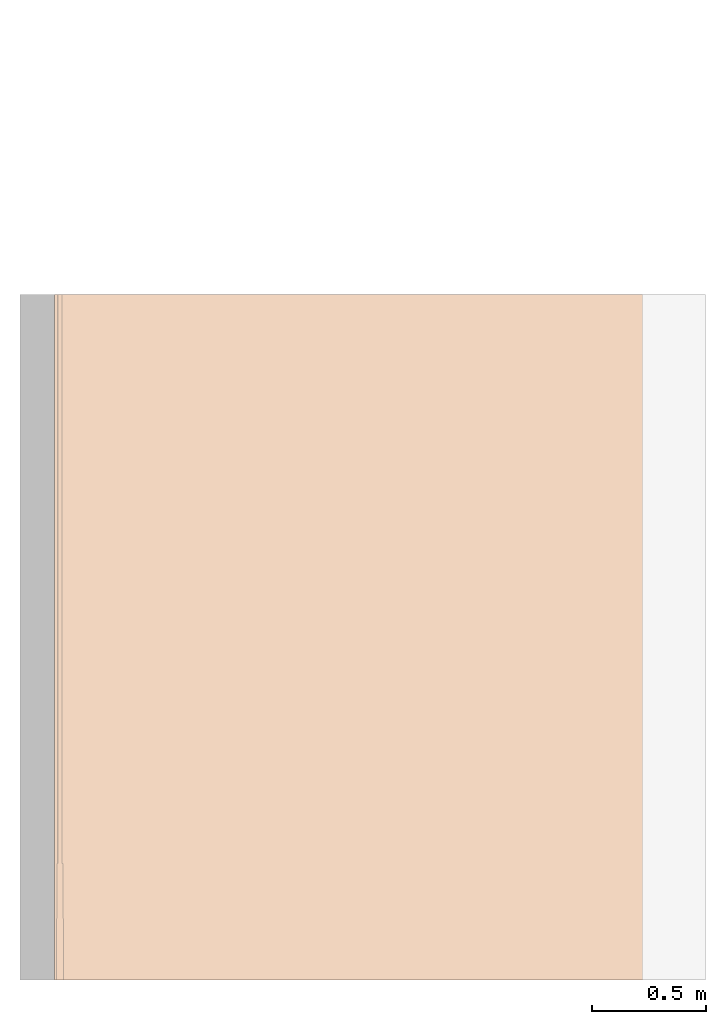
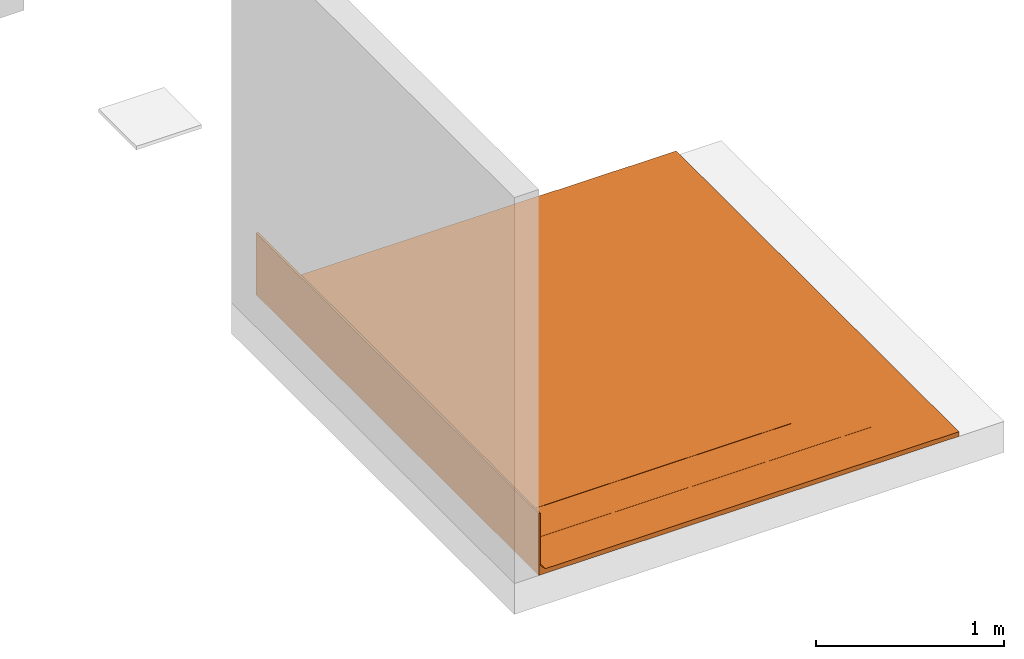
# One storey, part 2 of 2: 1 proxy.
"""IFC2X3 building model written with IfcOpenShell, lengths in metres."""

from ifc_helpers import new_model, entity, si_unit, converted_unit, derived_unit, direction, frame, frame_2d, origin, place, context, subcontext, project, spatial, polyline, circle_curve, parameter, trimmed, segment, composite_curve, rectangle, outline, extrude, source, transform, mapped, material, material_list, type_object, type_shapes, element, save


model = new_model("IFC2X3")

# Units and contexts
model_context = context("Model", 3, precision=1e-05, world=origin(), true_north=direction((6.123031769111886e-17, 1.0)))
body_context = subcontext(model_context, "Body", "Model", "MODEL_VIEW")
ifc_project = project(units=[si_unit("LENGTHUNIT", "METRE"), si_unit("AREAUNIT", "SQUARE_METRE"), si_unit("VOLUMEUNIT", "CUBIC_METRE"), converted_unit("PLANEANGLEUNIT", "DEGREE", entity("IfcRatioMeasure", 0.017453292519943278), si_unit("PLANEANGLEUNIT", "RADIAN"), dimensions=[0, 0, 0, 0, 0, 0, 0]), si_unit("MASSUNIT", "GRAM", prefix="KILO"), derived_unit("MASSDENSITYUNIT", [(si_unit("MASSUNIT", "GRAM", prefix="KILO"), 1), (si_unit("LENGTHUNIT", "METRE"), -3)]), derived_unit("IONCONCENTRATIONUNIT", [(si_unit("MASSUNIT", "GRAM", prefix="KILO"), 1), (si_unit("LENGTHUNIT", "METRE"), -3)]), derived_unit("MOMENTOFINERTIAUNIT", [(si_unit("LENGTHUNIT", "METRE"), 4)]), si_unit("TIMEUNIT", "SECOND"), si_unit("FREQUENCYUNIT", "HERTZ"), si_unit("THERMODYNAMICTEMPERATUREUNIT", "DEGREE_CELSIUS"), derived_unit("THERMALTRANSMITTANCEUNIT", [(si_unit("MASSUNIT", "GRAM", prefix="KILO"), 1), (si_unit("THERMODYNAMICTEMPERATUREUNIT", "KELVIN"), -1), (si_unit("TIMEUNIT", "SECOND"), -3)]), derived_unit("THERMALCONDUCTANCEUNIT", [(si_unit("MASSUNIT", "GRAM", prefix="KILO"), 1), (si_unit("THERMODYNAMICTEMPERATUREUNIT", "KELVIN"), -1), (si_unit("TIMEUNIT", "SECOND"), -3), (si_unit("LENGTHUNIT", "METRE"), 1)]), derived_unit("VOLUMETRICFLOWRATEUNIT", [(si_unit("LENGTHUNIT", "METRE"), 3), (si_unit("TIMEUNIT", "SECOND"), -1)]), derived_unit("MASSFLOWRATEUNIT", [(si_unit("MASSUNIT", "GRAM", prefix="KILO"), 1), (si_unit("TIMEUNIT", "SECOND"), -1)]), derived_unit("ROTATIONALFREQUENCYUNIT", [(si_unit("TIMEUNIT", "SECOND"), -1)]), si_unit("ELECTRICCURRENTUNIT", "AMPERE"), si_unit("ELECTRICVOLTAGEUNIT", "VOLT"), si_unit("POWERUNIT", "WATT"), si_unit("FORCEUNIT", "NEWTON", prefix="KILO"), si_unit("ILLUMINANCEUNIT", "LUX"), si_unit("LUMINOUSFLUXUNIT", "LUMEN"), si_unit("LUMINOUSINTENSITYUNIT", "CANDELA"), derived_unit("USERDEFINED", [(si_unit("MASSUNIT", "GRAM", prefix="KILO"), -1), (si_unit("LENGTHUNIT", "METRE"), -2), (si_unit("TIMEUNIT", "SECOND"), 3), (si_unit("LUMINOUSFLUXUNIT", "LUMEN"), 1)]), derived_unit("USERDEFINED", [(si_unit("MASSUNIT", "GRAM", prefix="KILO"), 1), (si_unit("TIMEUNIT", "SECOND"), -3), (si_unit("LENGTHUNIT", "METRE"), 3), (si_unit("ELECTRICCURRENTUNIT", "AMPERE"), -2)]), derived_unit("SOUNDPOWERUNIT", [(si_unit("MASSUNIT", "GRAM", prefix="KILO"), 1), (si_unit("TIMEUNIT", "SECOND"), -3), (si_unit("LENGTHUNIT", "METRE"), 2)]), derived_unit("SOUNDPRESSUREUNIT", [(si_unit("MASSUNIT", "GRAM", prefix="KILO"), 1), (si_unit("LENGTHUNIT", "METRE"), -1), (si_unit("TIMEUNIT", "SECOND"), -2)]), derived_unit("LINEARVELOCITYUNIT", [(si_unit("LENGTHUNIT", "METRE"), 1), (si_unit("TIMEUNIT", "SECOND"), -1)]), si_unit("PRESSUREUNIT", "PASCAL"), derived_unit("USERDEFINED", [(si_unit("MASSUNIT", "GRAM", prefix="KILO"), 1), (si_unit("LENGTHUNIT", "METRE"), -2), (si_unit("TIMEUNIT", "SECOND"), -2)]), derived_unit("LINEARFORCEUNIT", [(si_unit("MASSUNIT", "GRAM", prefix="KILO"), 1), (si_unit("TIMEUNIT", "SECOND"), -2)]), derived_unit("PLANARFORCEUNIT", [(si_unit("MASSUNIT", "GRAM", prefix="KILO"), 1), (si_unit("LENGTHUNIT", "METRE"), -1), (si_unit("TIMEUNIT", "SECOND"), -2)]), derived_unit("SPECIFICHEATCAPACITYUNIT", [(si_unit("THERMODYNAMICTEMPERATUREUNIT", "KELVIN"), -1), (si_unit("LENGTHUNIT", "METRE"), 2), (si_unit("TIMEUNIT", "SECOND"), -2)]), derived_unit("HEATINGVALUEUNIT", [(si_unit("LENGTHUNIT", "METRE"), 2), (si_unit("TIMEUNIT", "SECOND"), -2)]), derived_unit("VAPORPERMEABILITYUNIT", [(si_unit("LENGTHUNIT", "METRE"), -1), (si_unit("TIMEUNIT", "SECOND"), 1)]), derived_unit("DYNAMICVISCOSITYUNIT", [(si_unit("MASSUNIT", "GRAM", prefix="KILO"), 1), (si_unit("TIMEUNIT", "SECOND"), -1), (si_unit("LENGTHUNIT", "METRE"), -1)]), derived_unit("THERMALEXPANSIONCOEFFICIENTUNIT", [(si_unit("THERMODYNAMICTEMPERATUREUNIT", "KELVIN"), -1)]), derived_unit("MODULUSOFELASTICITYUNIT", [(si_unit("MASSUNIT", "GRAM", prefix="KILO"), 1), (si_unit("LENGTHUNIT", "METRE"), -1), (si_unit("TIMEUNIT", "SECOND"), -2)]), derived_unit("ISOTHERMALMOISTURECAPACITYUNIT", [(si_unit("LENGTHUNIT", "METRE"), 3), (si_unit("MASSUNIT", "GRAM", prefix="KILO"), -1)]), derived_unit("MOISTUREDIFFUSIVITYUNIT", [(si_unit("TIMEUNIT", "SECOND"), -1), (si_unit("LENGTHUNIT", "METRE"), 2)])], contexts=[model_context])

# Site, building, storey
site_placement = place(None, origin())
site = spatial("IfcSite", under=ifc_project, at=site_placement, Name="Default", CompositionType="ELEMENT")
building_placement = place(site_placement, origin())
building = spatial("IfcBuilding", under=site, at=building_placement, CompositionType="ELEMENT")
storey_placement = place(building_placement, frame((0.0, 0.0, -0.0025237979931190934)))
storey = spatial("IfcBuildingStorey", under=building, at=storey_placement, Name="ARQ Térreo", CompositionType="ELEMENT", Elevation=-0.0025237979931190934)

# Proxy
ifc_material_1 = material(Name="#argamassa")
ifc_material_2 = material(Name="#Primer Adeflex")
ifc_material_3 = material(Name="#Viamanta Multiuso Autocolante Alumínio")
ifc_material_list = material_list([ifc_material_1, ifc_material_2, ifc_material_3])
building_element_proxy_type = type_object("IfcBuildingElementProxyType", Name="IMPER:IMPER", PredefinedType="NOTDEFINED", material=ifc_material_list)
shared_shape = source(origin(), body_context, "Body", "SweptSolid", [
    extrude(rectangle(XDim=3.0000000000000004, YDim=0.010000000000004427, at=frame_2d((0.0, -3.382710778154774e-17), x_axis=(1.0, 0.0))), frame((-0.3469704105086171, -1.354129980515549, -0.0025237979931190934), z_axis=(0.0, 0.0, 1.0), x_axis=(0.0, -1.0, 0.0)), (0.0, 0.0, 1.0), 0.4000256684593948),
    extrude(outline(composite_curve([segment(polyline([(-1.0015321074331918, -0.006000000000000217), (1.5322981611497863, -0.006000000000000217)]), True, "CONTINUOUS"), segment(polyline([(1.5322981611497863, -0.006000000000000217), (1.5322981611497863, 0.023999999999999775)]), True, "CONTINUOUS"), segment(polyline([(1.5322981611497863, 0.023999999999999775), (-1.0315321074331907, 0.023999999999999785)]), True, "CONTINUOUS"), segment(polyline([(-1.0315321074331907, 0.023999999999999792), (-1.031532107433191, -0.03599999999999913)]), True, "CONTINUOUS"), segment(trimmed(circle_curve(frame_2d((-1.0015321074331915, -0.03599999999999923), x_axis=(1.0, 0.0)), 0.029999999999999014), [parameter(90.0000000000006)], [parameter(179.99999999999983)], True, "PARAMETER"), False, "CONTINUOUS")], self_intersect=False)), frame((0.6895616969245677, -2.854129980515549, 0.02147620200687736), z_axis=(0.0, 1.0, 0.0), x_axis=(1.0, 0.0, 0.0)), (0.0, 0.0, 1.0), 3.0000000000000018),
    extrude(outline(composite_curve([segment(polyline([(-0.5530448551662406, -0.07097145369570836), (-0.5530448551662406, 0.2698640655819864)]), True, "CONTINUOUS"), segment(polyline([(-0.5530448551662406, 0.2698640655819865), (-0.5540561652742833, 0.2698640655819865)]), True, "CONTINUOUS"), segment(polyline([(-0.5540561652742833, 0.2698640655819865), (-0.5540561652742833, -0.07016160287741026)]), True, "CONTINUOUS"), segment(trimmed(circle_curve(frame_2d((-0.5240561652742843, -0.07016160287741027), x_axis=(1.0, 0.0)), 0.029999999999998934), [parameter(179.99999999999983)], [parameter(270.00000000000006)], True, "PARAMETER"), True, "CONTINUOUS"), segment(polyline([(-0.5240561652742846, -0.10016160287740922), (1.6317671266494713, -0.10016160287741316)]), True, "CONTINUOUS"), segment(polyline([(1.6317671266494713, -0.10016160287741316), (1.6317671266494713, -0.09913593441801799)]), True, "CONTINUOUS"), segment(polyline([(1.6317671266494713, -0.09913593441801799), (-0.5252760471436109, -0.09913593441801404)]), True, "CONTINUOUS"), segment(trimmed(circle_curve(frame_2d((-0.5240561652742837, -0.07016160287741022), x_axis=(1.0, 0.0)), 0.028999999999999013), [parameter(181.60024369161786)], [parameter(267.5891478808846)], True, "PARAMETER"), False, "CONTINUOUS")], self_intersect=False)), frame((0.21208575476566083, -2.5846706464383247, 0.1276378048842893), z_axis=(0.0, -1.0, 0.0), x_axis=(1.0, 0.0, 0.0)), (0.0, 0.0, -1.0), 2.7305406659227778),
    extrude(outline(composite_curve([segment(polyline([(-0.2518303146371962, -0.026749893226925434), (-0.2518303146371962, -0.028749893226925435)]), True, "CONTINUOUS"), segment(polyline([(-0.2518303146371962, -0.028749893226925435), (-0.025136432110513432, -0.028749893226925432)]), True, "CONTINUOUS"), segment(trimmed(circle_curve(frame_2d((-0.025136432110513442, -0.019778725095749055), x_axis=(0.0, 1.0)), 0.008971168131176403), [parameter(179.99999999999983)], [parameter(188.97259907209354)], True, "PARAMETER"), True, "CONTINUOUS"), segment(trimmed(circle_curve(frame_2d((-0.031585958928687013, -0.0009508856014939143), x_axis=(0.0, 1.0)), 0.028780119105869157), [parameter(195.82572132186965)], [parameter(206.30888894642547)], True, "PARAMETER"), True, "CONTINUOUS"), segment(polyline([(-0.018830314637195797, -0.0267498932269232), (0.08897677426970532, -0.026749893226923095)]), True, "CONTINUOUS"), segment(trimmed(circle_curve(frame_2d((0.08819535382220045, 0.00023879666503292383), x_axis=(0.0, 1.0)), 0.026999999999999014), [parameter(181.6584572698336)], [parameter(267.5014383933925)], True, "PARAMETER"), True, "CONTINUOUS"), segment(polyline([(0.11516968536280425, -0.0009382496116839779), (0.11516968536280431, 0.13525010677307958)]), True, "CONTINUOUS"), segment(polyline([(0.11516968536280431, 0.13525010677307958), (0.11316968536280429, 0.13525010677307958)]), True, "CONTINUOUS"), segment(polyline([(0.11316968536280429, 0.13525010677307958), (0.11316968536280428, -0.0008937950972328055)]), True, "CONTINUOUS"), segment(trimmed(circle_curve(frame_2d((0.08819535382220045, 0.00023879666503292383), x_axis=(0.0, 1.0)), 0.024999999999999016), [parameter(181.72352416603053)], [parameter(267.4034021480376)], True, "PARAMETER"), False, "CONTINUOUS"), segment(polyline([(0.08894726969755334, -0.024749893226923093), (-0.01605273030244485, -0.02474989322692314)]), True, "CONTINUOUS"), segment(trimmed(circle_curve(frame_2d((-0.016532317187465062, -0.037196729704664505), x_axis=(0.0, 1.0)), 0.012456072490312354), [parameter(357.79343785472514)], [parameter(26.28836883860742)], True, "PARAMETER"), True, "CONTINUOUS"), segment(trimmed(circle_curve(frame_2d((-0.025136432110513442, -0.019778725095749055), x_axis=(0.0, 1.0)), 0.006971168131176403), [parameter(179.9999999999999)], [parameter(206.288368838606)], True, "PARAMETER"), False, "CONTINUOUS"), segment(polyline([(-0.025136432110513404, -0.02674989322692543), (-0.2518303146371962, -0.026749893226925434)]), True, "CONTINUOUS")], self_intersect=False)), frame((-0.3122092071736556, -2.3455359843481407, 0.14567155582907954), z_axis=(0.0, -1.0, 0.0), x_axis=(0.0, 0.0, -1.0)), (0.0, 0.0, -1.0), 2.4914060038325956),
    extrude(outline(composite_curve([segment(trimmed(circle_curve(frame_2d((-0.43570603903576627, 0.01282034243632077), x_axis=(1.0, 0.0)), 0.028999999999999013), [parameter(92.41085211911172)], [parameter(178.39975630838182)], True, "PARAMETER"), True, "CONTINUOUS"), segment(polyline([(-0.4646947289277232, 0.013630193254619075), (-0.4646947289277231, -0.09620532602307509)]), True, "CONTINUOUS"), segment(polyline([(-0.4646947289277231, -0.09620532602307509), (-0.4626947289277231, -0.09420532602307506)]), True, "CONTINUOUS"), segment(polyline([(-0.4626947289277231, -0.09420532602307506), (-0.4626947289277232, 0.013601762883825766)]), True, "CONTINUOUS"), segment(trimmed(circle_curve(frame_2d((-0.43570603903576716, 0.01282034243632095), x_axis=(1.0, 0.0)), 0.026999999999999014), [parameter(92.49856160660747)], [parameter(178.34154273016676)], True, "PARAMETER"), False, "CONTINUOUS"), segment(polyline([(-0.43688308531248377, 0.039794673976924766), (1.3642939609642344, 0.03979467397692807)]), True, "CONTINUOUS"), segment(polyline([(1.3642939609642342, 0.03979467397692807), (1.3642939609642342, 0.04179467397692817)]), True, "CONTINUOUS"), segment(polyline([(1.3642939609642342, 0.04179467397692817), (-0.43692592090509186, 0.04179467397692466)]), True, "CONTINUOUS")], self_intersect=False)), frame((0.12373562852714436, -2.345535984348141, 0.07029654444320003), z_axis=(0.0, 1.0, 0.0), x_axis=(1.0, 0.0, 0.0)), (0.0, 0.0, 1.0), 2.4914060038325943),
])
type_shapes(building_element_proxy_type, [shared_shape])
proxy_placement = place(storey_placement, frame((0.0, 0.0, 0.0025237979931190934)))
element("IfcBuildingElementProxy", 1, at=proxy_placement, inside=storey, type_object=building_element_proxy_type, material=ifc_material_list, Name="IMPER:IMPER:IMPER : IMPER:IMPER", ObjectType="IMPER:IMPER:IMPER : IMPER:IMPER", context=body_context, shape_type="MappedRepresentation", body=[
    mapped(shared_shape, transform((0.0, 0.0, 0.0), scale=1.0)),
])

save(model, "model.ifc")
